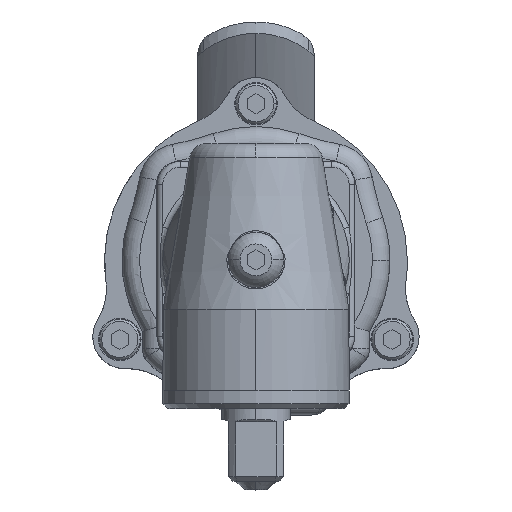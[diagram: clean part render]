
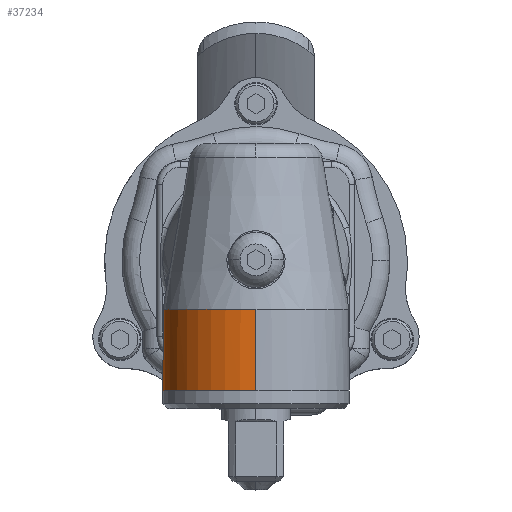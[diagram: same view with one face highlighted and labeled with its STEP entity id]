
A CAD part, top view. The second image highlights one B-rep face of the part: STEP entity #37234.
In plain terms, the highlighted cylindrical face has radius 16 mm (diameter 32 mm), a partial arc.
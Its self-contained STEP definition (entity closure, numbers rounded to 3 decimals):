
#36766 = VERTEX_POINT ( 'NONE', #84986 ) ;
#36870 = VERTEX_POINT ( 'NONE', #85190 ) ;
#36887 = EDGE_CURVE ( 'NONE', #36766, #36890, #85181, .T. ) ;
#36890 = VERTEX_POINT ( 'NONE', #85212 ) ;
#37069 = ORIENTED_EDGE ( 'NONE', *, *, #37131, .T. ) ;
#37127 = VERTEX_POINT ( 'NONE', #85473 ) ;
#37131 = EDGE_CURVE ( 'NONE', #36766, #37127, #85526, .T. ) ;
#37186 = ORIENTED_EDGE ( 'NONE', *, *, #37188, .T. ) ;
#37188 = EDGE_CURVE ( 'NONE', #37127, #37190, #85578, .T. ) ;
#37190 = VERTEX_POINT ( 'NONE', #85577 ) ;
#37191 = ORIENTED_EDGE ( 'NONE', *, *, #37193, .T. ) ;
#37193 = EDGE_CURVE ( 'NONE', #37190, #37196, #85569, .T. ) ;
#37196 = VERTEX_POINT ( 'NONE', #85570 ) ;
#37198 = ORIENTED_EDGE ( 'NONE', *, *, #37200, .T. ) ;
#37200 = EDGE_CURVE ( 'NONE', #37196, #36870, #85564, .T. ) ;
#37202 = ORIENTED_EDGE ( 'NONE', *, *, #37204, .F. ) ;
#37204 = EDGE_CURVE ( 'NONE', #36890, #36870, #85590, .T. ) ;
#37234 = ADVANCED_FACE ( 'NONE', ( #85628 ), #85675, .T. ) ;
#37237 = EDGE_LOOP ( 'NONE', ( #37238, #37069, #37186, #37191, #37198, #37202 ) ) ;
#37238 = ORIENTED_EDGE ( 'NONE', *, *, #36887, .F. ) ;
#84986 = CARTESIAN_POINT ( 'NONE',  ( 0., -8.5, 16. ) ) ;
#85178 = DIRECTION ( 'NONE',  ( 0., -1., 0. ) ) ;
#85179 = VECTOR ( 'NONE', #85178, 1000. ) ;
#85180 = CARTESIAN_POINT ( 'NONE',  ( 0., -27.252, 16. ) ) ;
#85181 = LINE ( 'NONE', #85180, #85179 ) ;
#85190 = CARTESIAN_POINT ( 'NONE',  ( -11.314, -22.5, -11.314 ) ) ;
#85212 = CARTESIAN_POINT ( 'NONE',  ( 0., -22.5, 16. ) ) ;
#85473 = CARTESIAN_POINT ( 'NONE',  ( -14.554, -8.5, -6.646 ) ) ;
#85511 = DIRECTION ( 'NONE',  ( 0., 0., -1. ) ) ;
#85512 = DIRECTION ( 'NONE',  ( 0., -1., 0. ) ) ;
#85513 = CARTESIAN_POINT ( 'NONE',  ( 0., -8.5, 0. ) ) ;
#85525 = AXIS2_PLACEMENT_3D ( 'NONE', #85513, #85512, #85511 ) ;
#85526 = CIRCLE ( 'NONE', #85525, 16. ) ;
#85561 = CARTESIAN_POINT ( 'NONE',  ( -12.349, -12.764, -10.177 ) ) ;
#85562 = CARTESIAN_POINT ( 'NONE',  ( -12.168, -12.67, -10.394 ) ) ;
#85563 = CARTESIAN_POINT ( 'NONE',  ( -11.972, -12.605, -10.615 ) ) ;
#85564 = B_SPLINE_CURVE_WITH_KNOTS ( 'NONE', 3,
 ( #85563, #85562, #85561, #85621, #85620, #85619, #85618, #85617, #85616, #85615, #85614, #85613, #85612, #85611, #85610, #85609, #85608, #85607, #85606, #85605, #85604, #85603, #85602, #85601, #85600, #85599, #85598, #85597, #85596, #85595, #85594, #85593, #85592, #85591 ),
 .UNSPECIFIED., .F., .F.,
 ( 4, 2, 2, 2, 2, 2, 2, 2, 2, 2, 2, 2, 2, 2, 2, 2, 4 ),
 ( 0., 0.001, 0.002, 0.003, 0.004, 0.004, 0.005, 0.006, 0.007, 0.008, 0.009, 0.01, 0.011, 0.012, 0.012, 0.013, 0.014 ),
 .UNSPECIFIED. ) ;
#85565 = CARTESIAN_POINT ( 'NONE',  ( -11.972, -12.605, -10.615 ) ) ;
#85566 = CARTESIAN_POINT ( 'NONE',  ( -12.932, -11.319, -9.532 ) ) ;
#85567 = CARTESIAN_POINT ( 'NONE',  ( -13.737, -9.892, -8.33 ) ) ;
#85568 = CARTESIAN_POINT ( 'NONE',  ( -14.373, -8.348, -7.03 ) ) ;
#85569 =( BOUNDED_CURVE ( )  B_SPLINE_CURVE ( 3, ( #85568, #85567, #85566, #85565 ),
 .UNSPECIFIED., .F., .T. ) 
 B_SPLINE_CURVE_WITH_KNOTS ( ( 4, 4 ),
 ( 5.167, 5.438 ),
 .UNSPECIFIED. ) 
 CURVE ( )  GEOMETRIC_REPRESENTATION_ITEM ( )  RATIONAL_B_SPLINE_CURVE ( ( 1., 0.994, 0.994, 1. ) ) 
 REPRESENTATION_ITEM ( '' )  );
#85570 = CARTESIAN_POINT ( 'NONE',  ( -11.972, -12.605, -10.615 ) ) ;
#85571 = CARTESIAN_POINT ( 'NONE',  ( -14.373, -8.348, -7.03 ) ) ;
#85572 = CARTESIAN_POINT ( 'NONE',  ( -14.394, -8.411, -6.987 ) ) ;
#85573 = CARTESIAN_POINT ( 'NONE',  ( -14.425, -8.45, -6.923 ) ) ;
#85574 = CARTESIAN_POINT ( 'NONE',  ( -14.489, -8.493, -6.789 ) ) ;
#85575 = CARTESIAN_POINT ( 'NONE',  ( -14.522, -8.5, -6.717 ) ) ;
#85576 = CARTESIAN_POINT ( 'NONE',  ( -14.554, -8.5, -6.646 ) ) ;
#85577 = CARTESIAN_POINT ( 'NONE',  ( -14.373, -8.348, -7.03 ) ) ;
#85578 = B_SPLINE_CURVE_WITH_KNOTS ( 'NONE', 3,
 ( #85576, #85575, #85574, #85573, #85572, #85571 ),
 .UNSPECIFIED., .F., .F.,
 ( 4, 2, 4 ),
 ( 0., 0., 0. ),
 .UNSPECIFIED. ) ;
#85586 = DIRECTION ( 'NONE',  ( 0., 0., -1. ) ) ;
#85587 = DIRECTION ( 'NONE',  ( 0., -1., 0. ) ) ;
#85588 = CARTESIAN_POINT ( 'NONE',  ( 0., -22.5, 0. ) ) ;
#85589 = AXIS2_PLACEMENT_3D ( 'NONE', #85588, #85587, #85586 ) ;
#85590 = CIRCLE ( 'NONE', #85589, 16. ) ;
#85591 = CARTESIAN_POINT ( 'NONE',  ( -11.314, -22.5, -11.314 ) ) ;
#85592 = CARTESIAN_POINT ( 'NONE',  ( -11.525, -22.5, -11.102 ) ) ;
#85593 = CARTESIAN_POINT ( 'NONE',  ( -11.729, -22.47, -10.887 ) ) ;
#85594 = CARTESIAN_POINT ( 'NONE',  ( -12.119, -22.351, -10.45 ) ) ;
#85595 = CARTESIAN_POINT ( 'NONE',  ( -12.307, -22.26, -10.228 ) ) ;
#85596 = CARTESIAN_POINT ( 'NONE',  ( -12.651, -22.028, -9.799 ) ) ;
#85597 = CARTESIAN_POINT ( 'NONE',  ( -12.81, -21.887, -9.59 ) ) ;
#85598 = CARTESIAN_POINT ( 'NONE',  ( -13.104, -21.553, -9.184 ) ) ;
#85599 = CARTESIAN_POINT ( 'NONE',  ( -13.236, -21.363, -8.991 ) ) ;
#85600 = CARTESIAN_POINT ( 'NONE',  ( -13.472, -20.947, -8.635 ) ) ;
#85601 = CARTESIAN_POINT ( 'NONE',  ( -13.576, -20.72, -8.469 ) ) ;
#85602 = CARTESIAN_POINT ( 'NONE',  ( -13.759, -20.23, -8.169 ) ) ;
#85603 = CARTESIAN_POINT ( 'NONE',  ( -13.835, -19.973, -8.038 ) ) ;
#85604 = CARTESIAN_POINT ( 'NONE',  ( -13.963, -19.436, -7.814 ) ) ;
#85605 = CARTESIAN_POINT ( 'NONE',  ( -14.014, -19.154, -7.721 ) ) ;
#85606 = CARTESIAN_POINT ( 'NONE',  ( -14.091, -18.574, -7.579 ) ) ;
#85607 = CARTESIAN_POINT ( 'NONE',  ( -14.117, -18.281, -7.531 ) ) ;
#85608 = CARTESIAN_POINT ( 'NONE',  ( -14.143, -17.688, -7.481 ) ) ;
#85609 = CARTESIAN_POINT ( 'NONE',  ( -14.144, -17.385, -7.479 ) ) ;
#85610 = CARTESIAN_POINT ( 'NONE',  ( -14.121, -16.787, -7.522 ) ) ;
#85611 = CARTESIAN_POINT ( 'NONE',  ( -14.098, -16.493, -7.567 ) ) ;
#85612 = CARTESIAN_POINT ( 'NONE',  ( -14.025, -15.915, -7.701 ) ) ;
#85613 = CARTESIAN_POINT ( 'NONE',  ( -13.976, -15.629, -7.791 ) ) ;
#85614 = CARTESIAN_POINT ( 'NONE',  ( -13.851, -15.086, -8.009 ) ) ;
#85615 = CARTESIAN_POINT ( 'NONE',  ( -13.777, -14.828, -8.138 ) ) ;
#85616 = CARTESIAN_POINT ( 'NONE',  ( -13.599, -14.335, -8.431 ) ) ;
#85617 = CARTESIAN_POINT ( 'NONE',  ( -13.496, -14.103, -8.596 ) ) ;
#85618 = CARTESIAN_POINT ( 'NONE',  ( -13.265, -13.682, -8.949 ) ) ;
#85619 = CARTESIAN_POINT ( 'NONE',  ( -13.136, -13.491, -9.138 ) ) ;
#85620 = CARTESIAN_POINT ( 'NONE',  ( -12.846, -13.149, -9.541 ) ) ;
#85621 = CARTESIAN_POINT ( 'NONE',  ( -12.688, -13.003, -9.751 ) ) ;
#85622 = CARTESIAN_POINT ( 'NONE',  ( 0., -27.252, 0. ) ) ;
#85628 = FACE_OUTER_BOUND ( 'NONE', #37237, .T. ) ;
#85672 = DIRECTION ( 'NONE',  ( 0., 0., -1. ) ) ;
#85673 = DIRECTION ( 'NONE',  ( 0., -1., 0. ) ) ;
#85674 = AXIS2_PLACEMENT_3D ( 'NONE', #85622, #85673, #85672 ) ;
#85675 = CYLINDRICAL_SURFACE ( 'NONE', #85674, 16. ) ;
